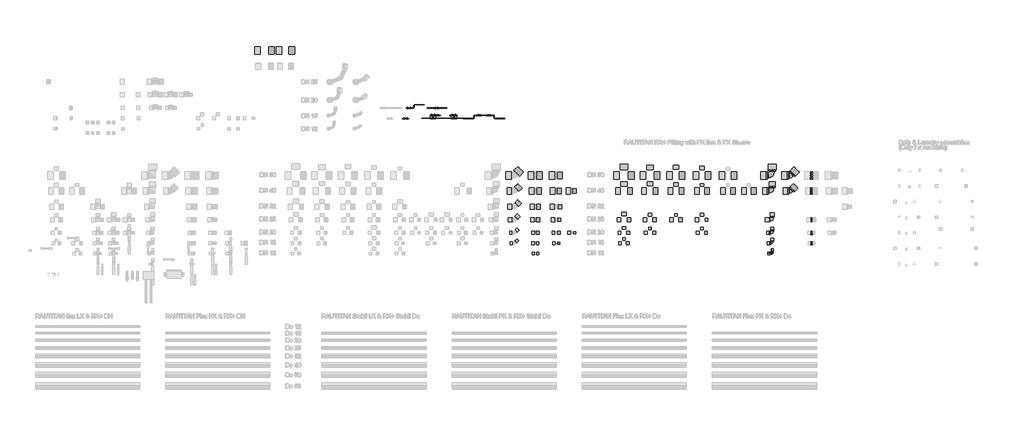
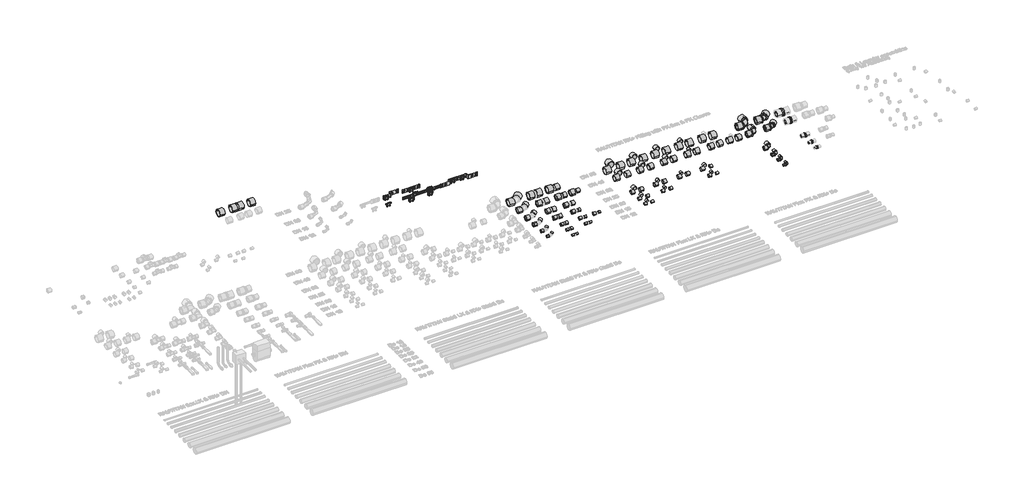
# One storey, part 8 of 18: 129 pipe fittings, 13 proxies.
"""IFC4 building model written with IfcOpenShell, lengths in millimetres."""

from ifc_helpers import new_model, si_unit, origin, place, context, project, spatial, transform, mapped, element, save
from components import mechanical_equipment_31ec48f0, mechanical_equipment_87cdfacb, mechanical_equipment_64e80083, mechanical_equipment_b03999f3, mechanical_equipment_fc905d6f, pipe_fitting_2d968c61, pipe_fitting_88740129, pipe_fitting_dc5bd9e1, pipe_fitting_0c431896, pipe_fitting_b86a113a, pipe_fitting_19b78b0a, pipe_fitting_ad9c1ac8, pipe_fitting_68c5f3c2, pipe_fitting_036417f6, pipe_fitting_41d1b401, pipe_fitting_b246e7b6, pipe_fitting_d3b0917d, pipe_fitting_559d0b61, pipe_fitting_5c01712a, pipe_fitting_b25a488c, dn1_c9c9eba3, dn1_749d9a03, dn1_037c3912, pipe_fitting_a8fbe6ac, pipe_fitting_02b715f6, pipe_fitting_7a5bf8d1, pipe_fitting_d8f8e9d9

model = new_model("IFC4")

# Units and contexts
model_context = context("Model", 3, world=origin())
ifc_project = project(units=[si_unit("LENGTHUNIT", "METRE", prefix="MILLI")], contexts=[model_context])

# Site, building, storey
site = spatial("IfcSite", under=ifc_project)
building = spatial("IfcBuilding", under=site)
storey = spatial("IfcBuildingStorey", under=building, Name="REHAU Starting view", Elevation=0.0)

# Proxies
placement = place(None, origin())
mechanical_equipment_shape = mechanical_equipment_31ec48f0(model_context)
element("IfcBuildingElementProxy", 1, Name="REHAU_RAUTITAN_Insulation plate for brackets : REHAU_RAUTITAN_Insulation plate for brackets", ObjectType="REHAU_RAUTITAN_Insulation plate for brackets : REHAU_RAUTITAN_Insulation plate for brackets", at=placement, inside=storey, context=model_context, shape_type="MappedRepresentation", body=[
    mapped(mechanical_equipment_shape, transform((6757.15, 1427.0, 0.0), x_axis=(1.0, 0.0, 0.0), y_axis=(0.0, 1.0, 0.0), z_axis=(0.0, 0.0, 1.0))),
])
element("IfcBuildingElementProxy", 2, Name="REHAU_RAUTITAN_Insulation plate for brackets : REHAU_RAUTITAN_Insulation plate for brackets", ObjectType="REHAU_RAUTITAN_Insulation plate for brackets : REHAU_RAUTITAN_Insulation plate for brackets", at=placement, inside=storey, context=model_context, shape_type="MappedRepresentation", body=[
    mapped(mechanical_equipment_shape, transform((6857.15, 1427.0, 0.0), x_axis=(1.0, 0.0, 0.0), y_axis=(0.0, 1.0, 0.0), z_axis=(0.0, 0.0, 1.0))),
])
element("IfcBuildingElementProxy", 3, Name="REHAU_RAUTITAN_Insulation plate for brackets : REHAU_RAUTITAN_Insulation plate for brackets", ObjectType="REHAU_RAUTITAN_Insulation plate for brackets : REHAU_RAUTITAN_Insulation plate for brackets", at=placement, inside=storey, context=model_context, shape_type="MappedRepresentation", body=[
    mapped(mechanical_equipment_shape, transform((6357.3374395, 1427.0, 0.0), x_axis=(1.0, 0.0, 0.0), y_axis=(0.0, 1.0, 0.0), z_axis=(0.0, 0.0, 1.0))),
])
element("IfcBuildingElementProxy", 4, Name="REHAU_RAUTITAN_Insulation plate for brackets : REHAU_RAUTITAN_Insulation plate for brackets", ObjectType="REHAU_RAUTITAN_Insulation plate for brackets : REHAU_RAUTITAN_Insulation plate for brackets", at=placement, inside=storey, context=model_context, shape_type="MappedRepresentation", body=[
    mapped(mechanical_equipment_shape, transform((6507.3374395, 1427.0, 0.0), x_axis=(1.0, 0.0, 0.0), y_axis=(0.0, 1.0, 0.0), z_axis=(0.0, 0.0, 1.0))),
])
element("IfcBuildingElementProxy", 5, Name="REHAU_RAUTITAN_Insulation plate for brackets : REHAU_RAUTITAN_Insulation plate for brackets", ObjectType="REHAU_RAUTITAN_Insulation plate for brackets : REHAU_RAUTITAN_Insulation plate for brackets", at=placement, inside=storey, context=model_context, shape_type="MappedRepresentation", body=[
    mapped(mechanical_equipment_shape, transform((6052.9151773, 1397.0, 0.0), x_axis=(1.0, 0.0, 0.0), y_axis=(0.0, 1.0, 0.0), z_axis=(0.0, 0.0, 1.0))),
])
element("IfcBuildingElementProxy", 6, Name="REHAU_RAUTITAN_Insulation plate for brackets : REHAU_RAUTITAN_Insulation plate for brackets", ObjectType="REHAU_RAUTITAN_Insulation plate for brackets : REHAU_RAUTITAN_Insulation plate for brackets", at=placement, inside=storey, context=model_context, shape_type="MappedRepresentation", body=[
    mapped(mechanical_equipment_shape, transform((6519.0826568, 1428.0, -58.0001742), x_axis=(1.0, 0.0, 0.0), y_axis=(0.0, 1.0, 0.0), z_axis=(0.0, 0.0, 1.0))),
])
element("IfcBuildingElementProxy", 7, Name="REHAU_RAUTITAN_Insulation plate for brackets : REHAU_RAUTITAN_Insulation plate for brackets", ObjectType="REHAU_RAUTITAN_Insulation plate for brackets : REHAU_RAUTITAN_Insulation plate for brackets", at=placement, inside=storey, context=model_context, shape_type="MappedRepresentation", body=[
    mapped(mechanical_equipment_shape, transform((6317.5907818, 1428.0, -58.0001742), x_axis=(1.0, 0.0, 0.0), y_axis=(0.0, 1.0, 0.0), z_axis=(0.0, 0.0, 1.0))),
])
element("IfcBuildingElementProxy", 8, Name="REHAU_RAUTITAN_Insulation plate for brackets : REHAU_RAUTITAN_Insulation plate for brackets", ObjectType="REHAU_RAUTITAN_Insulation plate for brackets : REHAU_RAUTITAN_Insulation plate for brackets", at=placement, inside=storey, context=model_context, shape_type="MappedRepresentation", body=[
    mapped(mechanical_equipment_shape, transform((6353.15, 1497.0, 0.0), x_axis=(1.0, 0.0, 0.0), y_axis=(0.0, 1.0, 0.0), z_axis=(0.0, 0.0, 1.0))),
])
element("IfcBuildingElementProxy", 9, Name="REHAU_RAUTITAN_Insulation plate for brackets : REHAU_RAUTITAN_Insulation plate for brackets", ObjectType="REHAU_RAUTITAN_Insulation plate for brackets : REHAU_RAUTITAN_Insulation plate for brackets", at=placement, inside=storey, context=model_context, shape_type="MappedRepresentation", body=[
    mapped(mechanical_equipment_shape, transform((6088.15, 1497.0, 0.0), x_axis=(1.0, 0.0, 0.0), y_axis=(0.0, 1.0, 0.0), z_axis=(0.0, 0.0, 1.0))),
])
mechanical_equipment_2_shape = mechanical_equipment_87cdfacb(model_context)
element("IfcBuildingElementProxy", 10, Name="REHAU_RAUTITAN_Bracket D : REHAU_RAUTITAN_Bracket D", ObjectType="REHAU_RAUTITAN_Bracket D : REHAU_RAUTITAN_Bracket D", at=placement, inside=storey, context=model_context, shape_type="MappedRepresentation", body=[
    mapped(mechanical_equipment_2_shape, transform((6418.15, 1414.0, 0.0), x_axis=(1.0, 0.0, 0.0), y_axis=(0.0, 1.0, 0.0), z_axis=(0.0, 0.0, 1.0))),
])
mechanical_equipment_3_shape = mechanical_equipment_64e80083(model_context)
element("IfcBuildingElementProxy", 11, Name="REHAU_RAUTITAN_Bracket E : REHAU_RAUTITAN_Bracket E", ObjectType="REHAU_RAUTITAN_Bracket E : REHAU_RAUTITAN_Bracket E", at=placement, inside=storey, context=model_context, shape_type="MappedRepresentation", body=[
    mapped(mechanical_equipment_3_shape, transform((6353.15, 1500.0, 0.0), x_axis=(1.0, 0.0, 0.0), y_axis=(0.0, 1.0, 0.0), z_axis=(0.0, 0.0, 1.0))),
])
mechanical_equipment_4_shape = mechanical_equipment_b03999f3(model_context)
element("IfcBuildingElementProxy", 12, Name="REHAU_RAUTITAN_Bracket O 100 : REHAU_RAUTITAN_Bracket O 100", ObjectType="REHAU_RAUTITAN_Bracket O 100 : REHAU_RAUTITAN_Bracket O 100", at=placement, inside=storey, context=model_context, shape_type="MappedRepresentation", body=[
    mapped(mechanical_equipment_4_shape, transform((6807.15, 1412.0, 0.0), x_axis=(1.0, 0.0, 0.0), y_axis=(0.0, 1.0, 0.0), z_axis=(0.0, 0.0, 1.0))),
])
mechanical_equipment_5_shape = mechanical_equipment_fc905d6f(model_context)
element("IfcBuildingElementProxy", 13, Name="REHAU_RAUTITAN_Bracket Z : REHAU Bracket Z 30, for single connection", ObjectType="REHAU_RAUTITAN_Bracket Z : REHAU Bracket Z 30, for single connection", at=placement, inside=storey, context=model_context, shape_type="MappedRepresentation", body=[
    mapped(mechanical_equipment_5_shape, transform((6133.15, 1512.0, 0.0), x_axis=(1.0, 0.0, 0.0), y_axis=(0.0, 1.0, 0.0), z_axis=(0.0, 0.0, 1.0))),
])

# Pipe fittings
pipe_fitting_shape = pipe_fitting_2d968c61(model_context)
element("IfcPipeFitting", 14, ObjectType="RAUTITAN_Union_RX+ : RTI RX+ U DN", at=placement, inside=storey, context=model_context, shape_type="MappedRepresentation", body=[
    mapped(pipe_fitting_shape, transform((9950.0, 200.0, 0.0), x_axis=(1.0, 0.0, 0.0), y_axis=(0.0, 1.0, 0.0), z_axis=(0.0, 0.0, 1.0))),
])
pipe_fitting_2_shape = pipe_fitting_88740129(model_context)
element("IfcPipeFitting", 15, ObjectType="RAUTITAN_Union_RX+ : RTI RX+ U DN", at=placement, inside=storey, context=model_context, shape_type="MappedRepresentation", body=[
    mapped(pipe_fitting_2_shape, transform((9950.0, 300.0, 0.0), x_axis=(1.0, 0.0, 0.0), y_axis=(0.0, 1.0, 0.0), z_axis=(0.0, 0.0, 1.0))),
])
pipe_fitting_3_shape = pipe_fitting_dc5bd9e1(model_context)
element("IfcPipeFitting", 16, ObjectType="RAUTITAN_Union_RX+ : RTI RX+ U DN", at=placement, inside=storey, context=model_context, shape_type="MappedRepresentation", body=[
    mapped(pipe_fitting_3_shape, transform((9950.0, 425.0, 0.0), x_axis=(1.0, 0.0, 0.0), y_axis=(0.0, 1.0, 0.0), z_axis=(0.0, 0.0, 1.0))),
])
pipe_fitting_4_shape = pipe_fitting_0c431896(model_context)
element("IfcPipeFitting", 17, ObjectType="RAUTITAN_Union_RX+ : RTI RX+ U DN", at=placement, inside=storey, context=model_context, shape_type="MappedRepresentation", body=[
    mapped(pipe_fitting_4_shape, transform((9950.0, 850.0, 0.0), x_axis=(1.0, 0.0, 0.0), y_axis=(0.0, 1.0, 0.0), z_axis=(0.0, 0.0, 1.0))),
])
pipe_fitting_5_shape = pipe_fitting_b86a113a(model_context)
element("IfcPipeFitting", 18, ObjectType="RAUTITAN_Corner_RX+ : RTI RX+ C DN", at=placement, inside=storey, context=model_context, shape_type="MappedRepresentation", body=[
    mapped(pipe_fitting_5_shape, transform((9575.0, 100.0, 0.0), x_axis=(1.0, 0.0, 0.0), y_axis=(0.0, 1.0, 0.0), z_axis=(0.0, 0.0, 1.0))),
])
pipe_fitting_6_shape = pipe_fitting_19b78b0a(model_context)
element("IfcPipeFitting", 19, ObjectType="RAUTITAN_Corner_RX+ : RTI RX+ C DN", at=placement, inside=storey, context=model_context, shape_type="MappedRepresentation", body=[
    mapped(pipe_fitting_6_shape, transform((9575.0, 200.0, 0.0), x_axis=(1.0, 0.0, 0.0), y_axis=(0.0, 1.0, 0.0), z_axis=(0.0, 0.0, 1.0))),
])
pipe_fitting_7_shape = pipe_fitting_ad9c1ac8(model_context)
element("IfcPipeFitting", 20, ObjectType="RAUTITAN_Corner_RX+ : RTI RX+ C DN", at=placement, inside=storey, context=model_context, shape_type="MappedRepresentation", body=[
    mapped(pipe_fitting_7_shape, transform((9575.0, 300.0, 0.0), x_axis=(1.0, 0.0, 0.0), y_axis=(0.0, 1.0, 0.0), z_axis=(0.0, 0.0, 1.0))),
])
pipe_fitting_8_shape = pipe_fitting_68c5f3c2(model_context)
element("IfcPipeFitting", 21, ObjectType="RAUTITAN_Corner_RX+ : RTI RX+ C DN", at=placement, inside=storey, context=model_context, shape_type="MappedRepresentation", body=[
    mapped(pipe_fitting_8_shape, transform((9575.0, 425.0, 0.0), x_axis=(1.0, 0.0, 0.0), y_axis=(0.0, 1.0, 0.0), z_axis=(0.0, 0.0, 1.0))),
])
pipe_fitting_9_shape = pipe_fitting_036417f6(model_context)
element("IfcPipeFitting", 22, ObjectType="RAUTITAN_Corner_RX+ : RTI RX+ C DN", at=placement, inside=storey, context=model_context, shape_type="MappedRepresentation", body=[
    mapped(pipe_fitting_9_shape, transform((9575.0, 700.0, 0.0), x_axis=(1.0, 0.0, 0.0), y_axis=(0.0, 1.0, 0.0), z_axis=(0.0, 0.0, 1.0))),
])
pipe_fitting_10_shape = pipe_fitting_41d1b401(model_context)
element("IfcPipeFitting", 23, ObjectType="RAUTITAN_Corner_RX+ : RTI RX+ C DN", at=placement, inside=storey, context=model_context, shape_type="MappedRepresentation", body=[
    mapped(pipe_fitting_10_shape, transform((9575.0, 850.0, 0.0), x_axis=(1.0, 0.0, 0.0), y_axis=(0.0, 1.0, 0.0), z_axis=(0.0, 0.0, 1.0))),
])
pipe_fitting_11_shape = pipe_fitting_b246e7b6(model_context)
element("IfcPipeFitting", 24, ObjectType="RAUTITAN_Corner_RX+ : RTI RX+ C DN", at=placement, inside=storey, context=model_context, shape_type="MappedRepresentation", body=[
    mapped(pipe_fitting_11_shape, transform((9750.0, 700.0, 0.0), x_axis=(1.0, 0.0, 0.0), y_axis=(0.0, 1.0, 0.0), z_axis=(0.0, 0.0, 1.0))),
])
pipe_fitting_12_shape = pipe_fitting_d3b0917d(model_context)
element("IfcPipeFitting", 25, ObjectType="RAUTITAN_Corner_RX+ : RTI RX+ C DN", at=placement, inside=storey, context=model_context, shape_type="MappedRepresentation", body=[
    mapped(pipe_fitting_12_shape, transform((9750.0, 850.0, 0.0), x_axis=(1.0, 0.0, 0.0), y_axis=(0.0, 1.0, 0.0), z_axis=(0.0, 0.0, 1.0))),
])
pipe_fitting_13_shape = pipe_fitting_559d0b61(model_context)
element("IfcPipeFitting", 26, ObjectType="RAUTITAN_Union_RX+ : RTI RX+ U DN", at=placement, inside=storey, context=model_context, shape_type="MappedRepresentation", body=[
    mapped(pipe_fitting_13_shape, transform((9950.0, 700.0, 0.0), x_axis=(1.0, 0.0, 0.0), y_axis=(0.0, 1.0, 0.0), z_axis=(0.0, 0.0, 1.0))),
])
pipe_fitting_14_shape = pipe_fitting_5c01712a(model_context)
element("IfcPipeFitting", 27, ObjectType="Sleeve : LX 7,4", at=placement, inside=storey, context=model_context, shape_type="MappedRepresentation", body=[
    mapped(pipe_fitting_14_shape, transform((9528.8, 700.0, 0.0), x_axis=(-1.0, 0.0, 0.0), y_axis=(0.0, -1.0, 0.0), z_axis=(0.0, 0.0, 1.0))),
])
element("IfcPipeFitting", 28, ObjectType="Sleeve : LX 7,4", at=placement, inside=storey, context=model_context, shape_type="MappedRepresentation", body=[
    mapped(pipe_fitting_14_shape, transform((9575.0, 746.2, 0.0), x_axis=(0.0, 1.0, 0.0), y_axis=(-1.0, 0.0, 0.0), z_axis=(0.0, 0.0, 1.0))),
])
element("IfcPipeFitting", 29, ObjectType="Sleeve : LX 7,4", at=placement, inside=storey, context=model_context, shape_type="MappedRepresentation", body=[
    mapped(pipe_fitting_14_shape, transform((9723.6, 700.0, 0.0), x_axis=(-1.0, 0.0, 0.0), y_axis=(0.0, -1.0, 0.0), z_axis=(0.0, 0.0, 1.0))),
])
element("IfcPipeFitting", 30, ObjectType="Sleeve : LX 7,4", at=placement, inside=storey, context=model_context, shape_type="MappedRepresentation", body=[
    mapped(pipe_fitting_14_shape, transform((9768.667619, 718.667619, 0.0), x_axis=(0.7071067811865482, 0.7071067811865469, 0.0), y_axis=(-0.7071067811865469, 0.7071067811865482, 0.0), z_axis=(0.0, 0.0, 1.0))),
])
element("IfcPipeFitting", 31, ObjectType="Sleeve : LX 7,4", at=placement, inside=storey, context=model_context, shape_type="MappedRepresentation", body=[
    mapped(pipe_fitting_14_shape, transform((8113.7, 700.0, 0.0), x_axis=(-1.0, 0.0, 0.0), y_axis=(0.0, -1.0, 0.0), z_axis=(0.0, 0.0, 1.0))),
])
element("IfcPipeFitting", 32, ObjectType="Sleeve : LX 7,4", at=placement, inside=storey, context=model_context, shape_type="MappedRepresentation", body=[
    mapped(pipe_fitting_14_shape, transform((8366.7, 700.0, 0.0), x_axis=(-1.0, 0.0, 0.0), y_axis=(0.0, -1.0, 0.0), z_axis=(0.0, 0.0, 1.0))),
])
element("IfcPipeFitting", 33, ObjectType="Sleeve : LX 7,4", at=placement, inside=storey, context=model_context, shape_type="MappedRepresentation", body=[
    mapped(pipe_fitting_14_shape, transform((8620.5, 700.0, 0.0), x_axis=(-1.0, 0.0, 0.0), y_axis=(0.0, -1.0, 0.0), z_axis=(0.0, 0.0, 1.0))),
])
element("IfcPipeFitting", 34, ObjectType="Sleeve : LX 7,4", at=placement, inside=storey, context=model_context, shape_type="MappedRepresentation", body=[
    mapped(pipe_fitting_14_shape, transform((8873.0, 700.0, 0.0), x_axis=(-1.0, 0.0, 0.0), y_axis=(0.0, -1.0, 0.0), z_axis=(0.0, 0.0, 1.0))),
])
element("IfcPipeFitting", 35, ObjectType="Sleeve : LX 7,4", at=placement, inside=storey, context=model_context, shape_type="MappedRepresentation", body=[
    mapped(pipe_fitting_14_shape, transform((9125.0, 700.0, 0.0), x_axis=(-1.0, 0.0, 0.0), y_axis=(0.0, -1.0, 0.0), z_axis=(0.0, 0.0, 1.0))),
])
element("IfcPipeFitting", 36, ObjectType="Sleeve : LX 7,4", at=placement, inside=storey, context=model_context, shape_type="MappedRepresentation", body=[
    mapped(pipe_fitting_14_shape, transform((9325.0, 700.0, 0.0), x_axis=(-1.0, 0.0, 0.0), y_axis=(0.0, -1.0, 0.0), z_axis=(0.0, 0.0, 1.0))),
])
element("IfcPipeFitting", 37, ObjectType="Sleeve : LX 7,4", at=placement, inside=storey, context=model_context, shape_type="MappedRepresentation", body=[
    mapped(pipe_fitting_14_shape, transform((8186.3, 700.0, 0.0), x_axis=(1.0, 0.0, 0.0), y_axis=(0.0, 1.0, 0.0), z_axis=(0.0, 0.0, 1.0))),
])
element("IfcPipeFitting", 38, ObjectType="Sleeve : LX 7,4", at=placement, inside=storey, context=model_context, shape_type="MappedRepresentation", body=[
    mapped(pipe_fitting_14_shape, transform((8433.3, 700.0, 0.0), x_axis=(1.0, 0.0, 0.0), y_axis=(0.0, 1.0, 0.0), z_axis=(0.0, 0.0, 1.0))),
])
element("IfcPipeFitting", 39, ObjectType="Sleeve : LX 7,4", at=placement, inside=storey, context=model_context, shape_type="MappedRepresentation", body=[
    mapped(pipe_fitting_14_shape, transform((8679.5, 700.0, 0.0), x_axis=(1.0, 0.0, 0.0), y_axis=(0.0, 1.0, 0.0), z_axis=(0.0, 0.0, 1.0))),
])
element("IfcPipeFitting", 40, ObjectType="Sleeve : LX 7,4", at=placement, inside=storey, context=model_context, shape_type="MappedRepresentation", body=[
    mapped(pipe_fitting_14_shape, transform((8927.0, 700.0, 0.0), x_axis=(1.0, 0.0, 0.0), y_axis=(0.0, 1.0, 0.0), z_axis=(0.0, 0.0, 1.0))),
])
element("IfcPipeFitting", 41, ObjectType="Sleeve : LX 7,4", at=placement, inside=storey, context=model_context, shape_type="MappedRepresentation", body=[
    mapped(pipe_fitting_14_shape, transform((9175.0, 700.0, 0.0), x_axis=(1.0, 0.0, 0.0), y_axis=(0.0, 1.0, 0.0), z_axis=(0.0, 0.0, 1.0))),
])
element("IfcPipeFitting", 42, ObjectType="Sleeve : LX 7,4", at=placement, inside=storey, context=model_context, shape_type="MappedRepresentation", body=[
    mapped(pipe_fitting_14_shape, transform((9375.0, 700.0, 0.0), x_axis=(1.0, 0.0, 0.0), y_axis=(0.0, 1.0, 0.0), z_axis=(0.0, 0.0, 1.0))),
])
element("IfcPipeFitting", 43, ObjectType="Sleeve : LX 7,4", at=placement, inside=storey, context=model_context, shape_type="MappedRepresentation", body=[
    mapped(pipe_fitting_14_shape, transform((8150.0, 748.0, 0.0), x_axis=(0.0, 1.0, 0.0), y_axis=(-1.0, 0.0, 0.0), z_axis=(0.0, 0.0, 1.0))),
])
element("IfcPipeFitting", 44, ObjectType="Sleeve : LX 7,4", at=placement, inside=storey, context=model_context, shape_type="MappedRepresentation", body=[
    mapped(pipe_fitting_14_shape, transform((8400.0, 903.0, 0.0), x_axis=(0.0, 1.0, 0.0), y_axis=(-1.0, 0.0, 0.0), z_axis=(0.0, 0.0, 1.0))),
])
pipe_fitting_15_shape = pipe_fitting_b25a488c(model_context)
element("IfcPipeFitting", 45, ObjectType="Sleeve : LX 7,4", at=placement, inside=storey, context=model_context, shape_type="MappedRepresentation", body=[
    mapped(pipe_fitting_15_shape, transform((9518.8, 850.0, 0.0), x_axis=(-1.0, 0.0, 0.0), y_axis=(0.0, -1.0, 0.0), z_axis=(0.0, 0.0, 1.0))),
])
element("IfcPipeFitting", 46, ObjectType="Sleeve : LX 7,4", at=placement, inside=storey, context=model_context, shape_type="MappedRepresentation", body=[
    mapped(pipe_fitting_15_shape, transform((9575.0, 906.2, 0.0), x_axis=(0.0, 1.0, 0.0), y_axis=(-1.0, 0.0, 0.0), z_axis=(0.0, 0.0, 1.0))),
])
element("IfcPipeFitting", 47, ObjectType="Sleeve : LX 7,4", at=placement, inside=storey, context=model_context, shape_type="MappedRepresentation", body=[
    mapped(pipe_fitting_15_shape, transform((9720.0, 850.0, 0.0), x_axis=(-1.0, 0.0, 0.0), y_axis=(0.0, -1.0, 0.0), z_axis=(0.0, 0.0, 1.0))),
])
element("IfcPipeFitting", 48, ObjectType="Sleeve : LX 7,4", at=placement, inside=storey, context=model_context, shape_type="MappedRepresentation", body=[
    mapped(pipe_fitting_15_shape, transform((9771.2132034, 871.2132034, 0.0), x_axis=(0.7071067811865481, 0.7071067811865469, 0.0), y_axis=(-0.7071067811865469, 0.7071067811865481, 0.0), z_axis=(0.0, 0.0, 1.0))),
])
element("IfcPipeFitting", 49, ObjectType="Sleeve : LX 7,4", at=placement, inside=storey, context=model_context, shape_type="MappedRepresentation", body=[
    mapped(pipe_fitting_15_shape, transform((8106.0, 850.0, 0.0), x_axis=(-1.0, 0.0, 0.0), y_axis=(0.0, -1.0, 0.0), z_axis=(0.0, 0.0, 1.0))),
])
element("IfcPipeFitting", 50, ObjectType="Sleeve : LX 7,4", at=placement, inside=storey, context=model_context, shape_type="MappedRepresentation", body=[
    mapped(pipe_fitting_15_shape, transform((8360.5, 850.0, 0.0), x_axis=(-1.0, 0.0, 0.0), y_axis=(0.0, -1.0, 0.0), z_axis=(0.0, 0.0, 1.0))),
])
element("IfcPipeFitting", 51, ObjectType="Sleeve : LX 7,4", at=placement, inside=storey, context=model_context, shape_type="MappedRepresentation", body=[
    mapped(pipe_fitting_15_shape, transform((8616.5, 850.0, 0.0), x_axis=(-1.0, 0.0, 0.0), y_axis=(0.0, -1.0, 0.0), z_axis=(0.0, 0.0, 1.0))),
])
element("IfcPipeFitting", 52, ObjectType="Sleeve : LX 7,4", at=placement, inside=storey, context=model_context, shape_type="MappedRepresentation", body=[
    mapped(pipe_fitting_15_shape, transform((8869.0, 850.0, 0.0), x_axis=(-1.0, 0.0, 0.0), y_axis=(0.0, -1.0, 0.0), z_axis=(0.0, 0.0, 1.0))),
])
element("IfcPipeFitting", 53, ObjectType="Sleeve : LX 7,4", at=placement, inside=storey, context=model_context, shape_type="MappedRepresentation", body=[
    mapped(pipe_fitting_15_shape, transform((9120.2, 850.0, 0.0), x_axis=(-1.0, 0.0, 0.0), y_axis=(0.0, -1.0, 0.0), z_axis=(0.0, 0.0, 1.0))),
])
element("IfcPipeFitting", 54, ObjectType="Sleeve : LX 7,4", at=placement, inside=storey, context=model_context, shape_type="MappedRepresentation", body=[
    mapped(pipe_fitting_15_shape, transform((8194.0, 850.0, 0.0), x_axis=(1.0, 0.0, 0.0), y_axis=(0.0, 1.0, 0.0), z_axis=(0.0, 0.0, 1.0))),
])
element("IfcPipeFitting", 55, ObjectType="Sleeve : LX 7,4", at=placement, inside=storey, context=model_context, shape_type="MappedRepresentation", body=[
    mapped(pipe_fitting_15_shape, transform((8439.5, 850.0, 0.0), x_axis=(1.0, 0.0, 0.0), y_axis=(0.0, 1.0, 0.0), z_axis=(0.0, 0.0, 1.0))),
])
element("IfcPipeFitting", 56, ObjectType="Sleeve : LX 7,4", at=placement, inside=storey, context=model_context, shape_type="MappedRepresentation", body=[
    mapped(pipe_fitting_15_shape, transform((8683.5, 850.0, 0.0), x_axis=(1.0, 0.0, 0.0), y_axis=(0.0, 1.0, 0.0), z_axis=(0.0, 0.0, 1.0))),
])
element("IfcPipeFitting", 57, ObjectType="Sleeve : LX 7,4", at=placement, inside=storey, context=model_context, shape_type="MappedRepresentation", body=[
    mapped(pipe_fitting_15_shape, transform((8931.0, 850.0, 0.0), x_axis=(1.0, 0.0, 0.0), y_axis=(0.0, 1.0, 0.0), z_axis=(0.0, 0.0, 1.0))),
])
element("IfcPipeFitting", 58, ObjectType="Sleeve : LX 7,4", at=placement, inside=storey, context=model_context, shape_type="MappedRepresentation", body=[
    mapped(pipe_fitting_15_shape, transform((9179.8, 850.0, 0.0), x_axis=(1.0, 0.0, 0.0), y_axis=(0.0, 1.0, 0.0), z_axis=(0.0, 0.0, 1.0))),
])
element("IfcPipeFitting", 59, ObjectType="Sleeve : LX 7,4", at=placement, inside=storey, context=model_context, shape_type="MappedRepresentation", body=[
    mapped(pipe_fitting_15_shape, transform((8150.0, 904.5, 0.0), x_axis=(0.0, 1.0, 0.0), y_axis=(-1.0, 0.0, 0.0), z_axis=(0.0, 0.0, 1.0))),
])
dn1_shape = dn1_c9c9eba3(model_context)
element("IfcPipeFitting", 60, ObjectType="Sleeve : PX 7,4", at=placement, inside=storey, context=model_context, shape_type="MappedRepresentation", body=[
    mapped(dn1_shape, transform((9554.1, 100.0, 0.0), x_axis=(-1.0, 0.0, 0.0), y_axis=(0.0, -1.0, 0.0), z_axis=(0.0, 0.0, 1.0))),
])
element("IfcPipeFitting", 61, ObjectType="Sleeve : PX 7,4", at=placement, inside=storey, context=model_context, shape_type="MappedRepresentation", body=[
    mapped(dn1_shape, transform((9575.0, 120.9, 0.0), x_axis=(0.0, 1.0, 0.0), y_axis=(-1.0, 0.0, 0.0), z_axis=(0.0, 0.0, 1.0))),
])
element("IfcPipeFitting", 62, ObjectType="Sleeve : PX 7,4", at=placement, inside=storey, context=model_context, shape_type="MappedRepresentation", body=[
    mapped(dn1_shape, transform((7510.3, 200.0, 0.0), x_axis=(1.0, 0.0, 0.0), y_axis=(0.0, 1.0, 0.0), z_axis=(0.0, 0.0, 1.0))),
])
element("IfcPipeFitting", 63, ObjectType="Sleeve : PX 7,4", at=placement, inside=storey, context=model_context, shape_type="MappedRepresentation", body=[
    mapped(dn1_shape, transform((7662.15, 300.0, 0.0), x_axis=(1.0, 0.0, 0.0), y_axis=(0.0, 1.0, 0.0), z_axis=(0.0, 0.0, 1.0))),
])
element("IfcPipeFitting", 64, ObjectType="Sleeve : PX 7,4", at=placement, inside=storey, context=model_context, shape_type="MappedRepresentation", body=[
    mapped(dn1_shape, transform((7292.75, 100.0, 0.0), x_axis=(-1.0, 0.0, 0.0), y_axis=(0.0, -1.0, 0.0), z_axis=(0.0, 0.0, 1.0))),
])
element("IfcPipeFitting", 65, ObjectType="Sleeve : PX 7,4", at=placement, inside=storey, context=model_context, shape_type="MappedRepresentation", body=[
    mapped(dn1_shape, transform((7307.25, 100.0, 0.0), x_axis=(1.0, 0.0, 0.0), y_axis=(0.0, 1.0, 0.0), z_axis=(0.0, 0.0, 1.0))),
])
dn1_2_shape = dn1_749d9a03(model_context)
element("IfcPipeFitting", 66, ObjectType="Sleeve : PX 7,4", at=placement, inside=storey, context=model_context, shape_type="MappedRepresentation", body=[
    mapped(dn1_2_shape, transform((7081.6867966, 200.0, 0.0), x_axis=(-1.0, 0.0, 0.0), y_axis=(0.0, -1.0, 0.0), z_axis=(0.0, 0.0, 1.0))),
])
element("IfcPipeFitting", 67, ObjectType="Sleeve : PX 7,4", at=placement, inside=storey, context=model_context, shape_type="MappedRepresentation", body=[
    mapped(dn1_2_shape, transform((7112.9493903, 212.9493903, 0.0), x_axis=(0.7071067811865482, 0.7071067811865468, 0.0), y_axis=(-0.7071067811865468, 0.7071067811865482, 0.0), z_axis=(0.0, 0.0, 1.0))),
])
element("IfcPipeFitting", 68, ObjectType="Sleeve : PX 7,4", at=placement, inside=storey, context=model_context, shape_type="MappedRepresentation", body=[
    mapped(dn1_2_shape, transform((9551.6, 200.0, 0.0), x_axis=(-1.0, 0.0, 0.0), y_axis=(0.0, -1.0, 0.0), z_axis=(0.0, 0.0, 1.0))),
])
element("IfcPipeFitting", 69, ObjectType="Sleeve : PX 7,4", at=placement, inside=storey, context=model_context, shape_type="MappedRepresentation", body=[
    mapped(dn1_2_shape, transform((9575.0, 223.4, 0.0), x_axis=(0.0, 1.0, 0.0), y_axis=(-1.0, 0.0, 0.0), z_axis=(0.0, 0.0, 1.0))),
])
element("IfcPipeFitting", 70, ObjectType="Sleeve : PX 7,4", at=placement, inside=storey, context=model_context, shape_type="MappedRepresentation", body=[
    mapped(dn1_2_shape, transform((8126.0, 200.0, 0.0), x_axis=(-1.0, 0.0, 0.0), y_axis=(0.0, -1.0, 0.0), z_axis=(0.0, 0.0, 1.0))),
])
element("IfcPipeFitting", 71, ObjectType="Sleeve : PX 7,4", at=placement, inside=storey, context=model_context, shape_type="MappedRepresentation", body=[
    mapped(dn1_2_shape, transform((8174.0, 200.0, 0.0), x_axis=(1.0, 0.0, 0.0), y_axis=(0.0, 1.0, 0.0), z_axis=(0.0, 0.0, 1.0))),
])
element("IfcPipeFitting", 72, ObjectType="Sleeve : PX 7,4", at=placement, inside=storey, context=model_context, shape_type="MappedRepresentation", body=[
    mapped(dn1_2_shape, transform((8924.0, 300.0, 0.0), x_axis=(1.0, 0.0, 0.0), y_axis=(0.0, 1.0, 0.0), z_axis=(0.0, 0.0, 1.0))),
])
element("IfcPipeFitting", 73, ObjectType="Sleeve : PX 7,4", at=placement, inside=storey, context=model_context, shape_type="MappedRepresentation", body=[
    mapped(dn1_2_shape, transform((8150.0, 227.0, 0.0), x_axis=(0.0, 1.0, 0.0), y_axis=(-1.0, 0.0, 0.0), z_axis=(0.0, 0.0, 1.0))),
])
element("IfcPipeFitting", 74, ObjectType="Sleeve : PX 7,4", at=placement, inside=storey, context=model_context, shape_type="MappedRepresentation", body=[
    mapped(dn1_2_shape, transform((8400.0, 330.0, 0.0), x_axis=(0.0, 1.0, 0.0), y_axis=(-1.0, 0.0, 0.0), z_axis=(0.0, 0.0, 1.0))),
])
element("IfcPipeFitting", 75, ObjectType="Sleeve : PX 7,4", at=placement, inside=storey, context=model_context, shape_type="MappedRepresentation", body=[
    mapped(dn1_2_shape, transform((8650.0, 458.0, 0.0), x_axis=(0.0, 1.0, 0.0), y_axis=(-1.0, 0.0, 0.0), z_axis=(0.0, 0.0, 1.0))),
])
element("IfcPipeFitting", 76, ObjectType="Sleeve : PX 7,4", at=placement, inside=storey, context=model_context, shape_type="MappedRepresentation", body=[
    mapped(dn1_2_shape, transform((8900.0, 330.0, 0.0), x_axis=(0.0, 1.0, 0.0), y_axis=(-1.0, 0.0, 0.0), z_axis=(0.0, 0.0, 1.0))),
])
element("IfcPipeFitting", 77, ObjectType="Sleeve : PX 7,4", at=placement, inside=storey, context=model_context, shape_type="MappedRepresentation", body=[
    mapped(dn1_2_shape, transform((7511.95, 300.0, 0.0), x_axis=(1.0, 0.0, 0.0), y_axis=(0.0, 1.0, 0.0), z_axis=(0.0, 0.0, 1.0))),
])
element("IfcPipeFitting", 78, ObjectType="Sleeve : PX 7,4", at=placement, inside=storey, context=model_context, shape_type="MappedRepresentation", body=[
    mapped(dn1_2_shape, transform((7489.7, 200.0, 0.0), x_axis=(-1.0, 0.0, 0.0), y_axis=(0.0, -1.0, 0.0), z_axis=(0.0, 0.0, 1.0))),
])
element("IfcPipeFitting", 79, ObjectType="Sleeve : PX 7,4", at=placement, inside=storey, context=model_context, shape_type="MappedRepresentation", body=[
    mapped(dn1_2_shape, transform((7292.15, 200.0, 0.0), x_axis=(-1.0, 0.0, 0.0), y_axis=(0.0, -1.0, 0.0), z_axis=(0.0, 0.0, 1.0))),
])
element("IfcPipeFitting", 80, ObjectType="Sleeve : PX 7,4", at=placement, inside=storey, context=model_context, shape_type="MappedRepresentation", body=[
    mapped(dn1_2_shape, transform((7307.85, 200.0, 0.0), x_axis=(1.0, 0.0, 0.0), y_axis=(0.0, 1.0, 0.0), z_axis=(0.0, 0.0, 1.0))),
])
dn1_3_shape = dn1_037c3912(model_context)
element("IfcPipeFitting", 81, ObjectType="Sleeve : PX 7,4", at=placement, inside=storey, context=model_context, shape_type="MappedRepresentation", body=[
    mapped(dn1_3_shape, transform((7078.9867966, 300.0, 0.0), x_axis=(-1.0, 0.0, 0.0), y_axis=(0.0, -1.0, 0.0), z_axis=(0.0, 0.0, 1.0))),
])
element("IfcPipeFitting", 82, ObjectType="Sleeve : PX 7,4", at=placement, inside=storey, context=model_context, shape_type="MappedRepresentation", body=[
    mapped(dn1_3_shape, transform((7114.8585786, 314.8585786, 0.0), x_axis=(0.7071067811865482, 0.7071067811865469, 0.0), y_axis=(-0.7071067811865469, 0.7071067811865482, 0.0), z_axis=(0.0, 0.0, 1.0))),
])
element("IfcPipeFitting", 83, ObjectType="Sleeve : PX 7,4", at=placement, inside=storey, context=model_context, shape_type="MappedRepresentation", body=[
    mapped(dn1_3_shape, transform((9547.5, 300.0, 0.0), x_axis=(-1.0, 0.0, 0.0), y_axis=(0.0, -1.0, 0.0), z_axis=(0.0, 0.0, 1.0))),
])
element("IfcPipeFitting", 84, ObjectType="Sleeve : PX 7,4", at=placement, inside=storey, context=model_context, shape_type="MappedRepresentation", body=[
    mapped(dn1_3_shape, transform((9575.0, 327.5, 0.0), x_axis=(0.0, 1.0, 0.0), y_axis=(-1.0, 0.0, 0.0), z_axis=(0.0, 0.0, 1.0))),
])
element("IfcPipeFitting", 85, ObjectType="Sleeve : PX 7,4", at=placement, inside=storey, context=model_context, shape_type="MappedRepresentation", body=[
    mapped(dn1_3_shape, transform((8121.0, 300.0, 0.0), x_axis=(-1.0, 0.0, 0.0), y_axis=(0.0, -1.0, 0.0), z_axis=(0.0, 0.0, 1.0))),
])
element("IfcPipeFitting", 86, ObjectType="Sleeve : PX 7,4", at=placement, inside=storey, context=model_context, shape_type="MappedRepresentation", body=[
    mapped(dn1_3_shape, transform((8372.0, 300.0, 0.0), x_axis=(-1.0, 0.0, 0.0), y_axis=(0.0, -1.0, 0.0), z_axis=(0.0, 0.0, 1.0))),
])
element("IfcPipeFitting", 87, ObjectType="Sleeve : PX 7,4", at=placement, inside=storey, context=model_context, shape_type="MappedRepresentation", body=[
    mapped(dn1_3_shape, transform((8872.0, 300.0, 0.0), x_axis=(-1.0, 0.0, 0.0), y_axis=(0.0, -1.0, 0.0), z_axis=(0.0, 0.0, 1.0))),
])
element("IfcPipeFitting", 88, ObjectType="Sleeve : PX 7,4", at=placement, inside=storey, context=model_context, shape_type="MappedRepresentation", body=[
    mapped(dn1_3_shape, transform((8179.0, 300.0, 0.0), x_axis=(1.0, 0.0, 0.0), y_axis=(0.0, 1.0, 0.0), z_axis=(0.0, 0.0, 1.0))),
])
element("IfcPipeFitting", 89, ObjectType="Sleeve : PX 7,4", at=placement, inside=storey, context=model_context, shape_type="MappedRepresentation", body=[
    mapped(dn1_3_shape, transform((8428.0, 300.0, 0.0), x_axis=(1.0, 0.0, 0.0), y_axis=(0.0, 1.0, 0.0), z_axis=(0.0, 0.0, 1.0))),
])
element("IfcPipeFitting", 90, ObjectType="Sleeve : PX 7,4", at=placement, inside=storey, context=model_context, shape_type="MappedRepresentation", body=[
    mapped(dn1_3_shape, transform((8929.0, 425.0, 0.0), x_axis=(1.0, 0.0, 0.0), y_axis=(0.0, 1.0, 0.0), z_axis=(0.0, 0.0, 1.0))),
])
element("IfcPipeFitting", 91, ObjectType="Sleeve : PX 7,4", at=placement, inside=storey, context=model_context, shape_type="MappedRepresentation", body=[
    mapped(dn1_3_shape, transform((8150.0, 332.0, 0.0), x_axis=(0.0, 1.0, 0.0), y_axis=(-1.0, 0.0, 0.0), z_axis=(0.0, 0.0, 1.0))),
])
element("IfcPipeFitting", 92, ObjectType="Sleeve : PX 7,4", at=placement, inside=storey, context=model_context, shape_type="MappedRepresentation", body=[
    mapped(dn1_3_shape, transform((8400.0, 460.0, 0.0), x_axis=(0.0, 1.0, 0.0), y_axis=(-1.0, 0.0, 0.0), z_axis=(0.0, 0.0, 1.0))),
])
element("IfcPipeFitting", 93, ObjectType="Sleeve : PX 7,4", at=placement, inside=storey, context=model_context, shape_type="MappedRepresentation", body=[
    mapped(dn1_3_shape, transform((8900.0, 744.5, 0.0), x_axis=(0.0, 1.0, 0.0), y_axis=(-1.0, 0.0, 0.0), z_axis=(0.0, 0.0, 1.0))),
])
element("IfcPipeFitting", 94, ObjectType="Sleeve : PX 7,4", at=placement, inside=storey, context=model_context, shape_type="MappedRepresentation", body=[
    mapped(dn1_3_shape, transform((8900.0, 460.0, 0.0), x_axis=(0.0, 1.0, 0.0), y_axis=(-1.0, 0.0, 0.0), z_axis=(0.0, 0.0, 1.0))),
])
element("IfcPipeFitting", 95, ObjectType="Sleeve : PX 7,4", at=placement, inside=storey, context=model_context, shape_type="MappedRepresentation", body=[
    mapped(dn1_3_shape, transform((7514.15, 425.0, 0.0), x_axis=(1.0, 0.0, 0.0), y_axis=(0.0, 1.0, 0.0), z_axis=(0.0, 0.0, 1.0))),
])
element("IfcPipeFitting", 96, ObjectType="Sleeve : PX 7,4", at=placement, inside=storey, context=model_context, shape_type="MappedRepresentation", body=[
    mapped(dn1_3_shape, transform((7488.05, 300.0, 0.0), x_axis=(-1.0, 0.0, 0.0), y_axis=(0.0, -1.0, 0.0), z_axis=(0.0, 0.0, 1.0))),
])
element("IfcPipeFitting", 97, ObjectType="Sleeve : PX 7,4", at=placement, inside=storey, context=model_context, shape_type="MappedRepresentation", body=[
    mapped(dn1_3_shape, transform((7637.85, 300.0, 0.0), x_axis=(-1.0, 0.0, 0.0), y_axis=(0.0, -1.0, 0.0), z_axis=(0.0, 0.0, 1.0))),
])
element("IfcPipeFitting", 98, ObjectType="Sleeve : PX 7,4", at=placement, inside=storey, context=model_context, shape_type="MappedRepresentation", body=[
    mapped(dn1_3_shape, transform((7291.95, 300.0, 0.0), x_axis=(-1.0, 0.0, 0.0), y_axis=(0.0, -1.0, 0.0), z_axis=(0.0, 0.0, 1.0))),
])
element("IfcPipeFitting", 99, ObjectType="Sleeve : PX 7,4", at=placement, inside=storey, context=model_context, shape_type="MappedRepresentation", body=[
    mapped(dn1_3_shape, transform((7308.05, 300.0, 0.0), x_axis=(1.0, 0.0, 0.0), y_axis=(0.0, 1.0, 0.0), z_axis=(0.0, 0.0, 1.0))),
])
pipe_fitting_16_shape = pipe_fitting_a8fbe6ac(model_context)
element("IfcPipeFitting", 100, ObjectType="Sleeve : PX 7,4", at=placement, inside=storey, context=model_context, shape_type="MappedRepresentation", body=[
    mapped(pipe_fitting_16_shape, transform((7075.7867966, 425.0, 0.0), x_axis=(-1.0, 0.0, 0.0), y_axis=(0.0, -1.0, 0.0), z_axis=(0.0, 0.0, 1.0))),
])
element("IfcPipeFitting", 101, ObjectType="Sleeve : PX 7,4", at=placement, inside=storey, context=model_context, shape_type="MappedRepresentation", body=[
    mapped(pipe_fitting_16_shape, transform((7117.1213203, 442.1213203, 0.0), x_axis=(0.7071067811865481, 0.7071067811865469, 0.0), y_axis=(-0.7071067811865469, 0.7071067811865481, 0.0), z_axis=(0.0, 0.0, 1.0))),
])
element("IfcPipeFitting", 102, ObjectType="Sleeve : PX 7,4", at=placement, inside=storey, context=model_context, shape_type="MappedRepresentation", body=[
    mapped(pipe_fitting_16_shape, transform((9543.6, 425.0, 0.0), x_axis=(-1.0, 0.0, 0.0), y_axis=(0.0, -1.0, 0.0), z_axis=(0.0, 0.0, 1.0))),
])
element("IfcPipeFitting", 103, ObjectType="Sleeve : PX 7,4", at=placement, inside=storey, context=model_context, shape_type="MappedRepresentation", body=[
    mapped(pipe_fitting_16_shape, transform((9575.0, 456.4, 0.0), x_axis=(0.0, 1.0, 0.0), y_axis=(-1.0, 0.0, 0.0), z_axis=(0.0, 0.0, 1.0))),
])
element("IfcPipeFitting", 104, ObjectType="Sleeve : PX 7,4", at=placement, inside=storey, context=model_context, shape_type="MappedRepresentation", body=[
    mapped(pipe_fitting_16_shape, transform((8120.0, 425.0, 0.0), x_axis=(-1.0, 0.0, 0.0), y_axis=(0.0, -1.0, 0.0), z_axis=(0.0, 0.0, 1.0))),
])
element("IfcPipeFitting", 105, ObjectType="Sleeve : PX 7,4", at=placement, inside=storey, context=model_context, shape_type="MappedRepresentation", body=[
    mapped(pipe_fitting_16_shape, transform((8371.0, 425.0, 0.0), x_axis=(-1.0, 0.0, 0.0), y_axis=(0.0, -1.0, 0.0), z_axis=(0.0, 0.0, 1.0))),
])
element("IfcPipeFitting", 106, ObjectType="Sleeve : PX 7,4", at=placement, inside=storey, context=model_context, shape_type="MappedRepresentation", body=[
    mapped(pipe_fitting_16_shape, transform((8623.0, 425.0, 0.0), x_axis=(-1.0, 0.0, 0.0), y_axis=(0.0, -1.0, 0.0), z_axis=(0.0, 0.0, 1.0))),
])
element("IfcPipeFitting", 107, ObjectType="Sleeve : PX 7,4", at=placement, inside=storey, context=model_context, shape_type="MappedRepresentation", body=[
    mapped(pipe_fitting_16_shape, transform((8871.0, 425.0, 0.0), x_axis=(-1.0, 0.0, 0.0), y_axis=(0.0, -1.0, 0.0), z_axis=(0.0, 0.0, 1.0))),
])
element("IfcPipeFitting", 108, ObjectType="Sleeve : PX 7,4", at=placement, inside=storey, context=model_context, shape_type="MappedRepresentation", body=[
    mapped(pipe_fitting_16_shape, transform((8180.0, 425.0, 0.0), x_axis=(1.0, 0.0, 0.0), y_axis=(0.0, 1.0, 0.0), z_axis=(0.0, 0.0, 1.0))),
])
element("IfcPipeFitting", 109, ObjectType="Sleeve : PX 7,4", at=placement, inside=storey, context=model_context, shape_type="MappedRepresentation", body=[
    mapped(pipe_fitting_16_shape, transform((8429.0, 425.0, 0.0), x_axis=(1.0, 0.0, 0.0), y_axis=(0.0, 1.0, 0.0), z_axis=(0.0, 0.0, 1.0))),
])
element("IfcPipeFitting", 110, ObjectType="Sleeve : PX 7,4", at=placement, inside=storey, context=model_context, shape_type="MappedRepresentation", body=[
    mapped(pipe_fitting_16_shape, transform((8677.0, 425.0, 0.0), x_axis=(1.0, 0.0, 0.0), y_axis=(0.0, 1.0, 0.0), z_axis=(0.0, 0.0, 1.0))),
])
element("IfcPipeFitting", 111, ObjectType="Sleeve : PX 7,4", at=placement, inside=storey, context=model_context, shape_type="MappedRepresentation", body=[
    mapped(pipe_fitting_16_shape, transform((8150.0, 463.0, 0.0), x_axis=(0.0, 1.0, 0.0), y_axis=(-1.0, 0.0, 0.0), z_axis=(0.0, 0.0, 1.0))),
])
element("IfcPipeFitting", 112, ObjectType="Sleeve : PX 7,4", at=placement, inside=storey, context=model_context, shape_type="MappedRepresentation", body=[
    mapped(pipe_fitting_16_shape, transform((8650.0, 747.0, 0.0), x_axis=(0.0, 1.0, 0.0), y_axis=(-1.0, 0.0, 0.0), z_axis=(0.0, 0.0, 1.0))),
])
element("IfcPipeFitting", 113, ObjectType="Sleeve : PX 7,4", at=placement, inside=storey, context=model_context, shape_type="MappedRepresentation", body=[
    mapped(pipe_fitting_16_shape, transform((8900.0, 904.5, 0.0), x_axis=(0.0, 1.0, 0.0), y_axis=(-1.0, 0.0, 0.0), z_axis=(0.0, 0.0, 1.0))),
])
element("IfcPipeFitting", 114, ObjectType="Sleeve : PX 7,4", at=placement, inside=storey, context=model_context, shape_type="MappedRepresentation", body=[
    mapped(pipe_fitting_16_shape, transform((7517.25, 550.0, 0.0), x_axis=(1.0, 0.0, 0.0), y_axis=(0.0, 1.0, 0.0), z_axis=(0.0, 0.0, 1.0))),
])
element("IfcPipeFitting", 115, ObjectType="Sleeve : PX 7,4", at=placement, inside=storey, context=model_context, shape_type="MappedRepresentation", body=[
    mapped(pipe_fitting_16_shape, transform((7485.85, 425.0, 0.0), x_axis=(-1.0, 0.0, 0.0), y_axis=(0.0, -1.0, 0.0), z_axis=(0.0, 0.0, 1.0))),
])
element("IfcPipeFitting", 116, ObjectType="Sleeve : PX 7,4", at=placement, inside=storey, context=model_context, shape_type="MappedRepresentation", body=[
    mapped(pipe_fitting_16_shape, transform((7658.0, 700.0, 0.0), x_axis=(1.0, 0.0, 0.0), y_axis=(0.0, 1.0, 0.0), z_axis=(0.0, 0.0, 1.0))),
])
element("IfcPipeFitting", 117, ObjectType="Sleeve : PX 7,4", at=placement, inside=storey, context=model_context, shape_type="MappedRepresentation", body=[
    mapped(pipe_fitting_16_shape, transform((7291.0, 425.0, 0.0), x_axis=(-1.0, 0.0, 0.0), y_axis=(0.0, -1.0, 0.0), z_axis=(0.0, 0.0, 1.0))),
])
element("IfcPipeFitting", 118, ObjectType="Sleeve : PX 7,4", at=placement, inside=storey, context=model_context, shape_type="MappedRepresentation", body=[
    mapped(pipe_fitting_16_shape, transform((7309.0, 425.0, 0.0), x_axis=(1.0, 0.0, 0.0), y_axis=(0.0, 1.0, 0.0), z_axis=(0.0, 0.0, 1.0))),
])
pipe_fitting_17_shape = pipe_fitting_02b715f6(model_context)
element("IfcPipeFitting", 119, ObjectType="Sleeve : PX 7,4", at=placement, inside=storey, context=model_context, shape_type="MappedRepresentation", body=[
    mapped(pipe_fitting_17_shape, transform((7073.5, 700.0, 0.0), x_axis=(-1.0, 0.0, 0.0), y_axis=(0.0, -1.0, 0.0), z_axis=(0.0, 0.0, 1.0))),
])
element("IfcPipeFitting", 120, ObjectType="Sleeve : PX 7,4", at=placement, inside=storey, context=model_context, shape_type="MappedRepresentation", body=[
    mapped(pipe_fitting_17_shape, transform((7118.7383297, 718.7383297, 0.0), x_axis=(0.7071067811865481, 0.7071067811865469, 0.0), y_axis=(-0.7071067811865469, 0.7071067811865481, 0.0), z_axis=(0.0, 0.0, 1.0))),
])
element("IfcPipeFitting", 121, ObjectType="Sleeve : PX 7,4", at=placement, inside=storey, context=model_context, shape_type="MappedRepresentation", body=[
    mapped(pipe_fitting_17_shape, transform((7489.0, 700.0, 0.0), x_axis=(-1.0, 0.0, 0.0), y_axis=(0.0, -1.0, 0.0), z_axis=(0.0, 0.0, 1.0))),
])
element("IfcPipeFitting", 122, ObjectType="Sleeve : PX 7,4", at=placement, inside=storey, context=model_context, shape_type="MappedRepresentation", body=[
    mapped(pipe_fitting_17_shape, transform((7512.0, 850.0, 0.0), x_axis=(1.0, 0.0, 0.0), y_axis=(0.0, 1.0, 0.0), z_axis=(0.0, 0.0, 1.0))),
])
element("IfcPipeFitting", 123, ObjectType="Sleeve : PX 7,4", at=placement, inside=storey, context=model_context, shape_type="MappedRepresentation", body=[
    mapped(pipe_fitting_17_shape, transform((7640.0, 700.0, 0.0), x_axis=(-1.0, 0.0, 0.0), y_axis=(0.0, -1.0, 0.0), z_axis=(0.0, 0.0, 1.0))),
])
element("IfcPipeFitting", 124, ObjectType="Sleeve : PX 7,4", at=placement, inside=storey, context=model_context, shape_type="MappedRepresentation", body=[
    mapped(pipe_fitting_17_shape, transform((7287.0, 700.0, 0.0), x_axis=(-1.0, 0.0, 0.0), y_axis=(0.0, -1.0, 0.0), z_axis=(0.0, 0.0, 1.0))),
])
element("IfcPipeFitting", 125, ObjectType="Sleeve : PX 7,4", at=placement, inside=storey, context=model_context, shape_type="MappedRepresentation", body=[
    mapped(pipe_fitting_17_shape, transform((7313.0, 700.0, 0.0), x_axis=(1.0, 0.0, 0.0), y_axis=(0.0, 1.0, 0.0), z_axis=(0.0, 0.0, 1.0))),
])
pipe_fitting_18_shape = pipe_fitting_7a5bf8d1(model_context)
element("IfcPipeFitting", 126, ObjectType="Sleeve : PX 7,4", at=placement, inside=storey, context=model_context, shape_type="MappedRepresentation", body=[
    mapped(pipe_fitting_18_shape, transform((7070.0, 850.0, 0.0), x_axis=(-1.0, 0.0, 0.0), y_axis=(0.0, -1.0, 0.0), z_axis=(0.0, 0.0, 1.0))),
])
element("IfcPipeFitting", 127, ObjectType="Sleeve : PX 7,4", at=placement, inside=storey, context=model_context, shape_type="MappedRepresentation", body=[
    mapped(pipe_fitting_18_shape, transform((7121.2132034, 871.2132034, 0.0), x_axis=(0.7071067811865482, 0.7071067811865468, 0.0), y_axis=(-0.7071067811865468, 0.7071067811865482, 0.0), z_axis=(0.0, 0.0, 1.0))),
])
element("IfcPipeFitting", 128, ObjectType="Sleeve : PX 7,4", at=placement, inside=storey, context=model_context, shape_type="MappedRepresentation", body=[
    mapped(pipe_fitting_18_shape, transform((7486.5, 850.0, 0.0), x_axis=(-1.0, 0.0, 0.0), y_axis=(0.0, -1.0, 0.0), z_axis=(0.0, 0.0, 1.0))),
])
element("IfcPipeFitting", 129, ObjectType="Sleeve : PX 7,4", at=placement, inside=storey, context=model_context, shape_type="MappedRepresentation", body=[
    mapped(pipe_fitting_18_shape, transform((7285.5, 850.0, 0.0), x_axis=(-1.0, 0.0, 0.0), y_axis=(0.0, -1.0, 0.0), z_axis=(0.0, 0.0, 1.0))),
])
element("IfcPipeFitting", 130, ObjectType="Sleeve : PX 7,4", at=placement, inside=storey, context=model_context, shape_type="MappedRepresentation", body=[
    mapped(pipe_fitting_18_shape, transform((7314.5, 850.0, 0.0), x_axis=(1.0, 0.0, 0.0), y_axis=(0.0, 1.0, 0.0), z_axis=(0.0, 0.0, 1.0))),
])
element("IfcPipeFitting", 131, ObjectType="Sleeve : PX 7,4", at=placement, inside=storey, context=model_context, shape_type="MappedRepresentation", body=[
    mapped(pipe_fitting_18_shape, transform((4659.0, 2050.0, 0.0), x_axis=(-1.0, 0.0, 0.0), y_axis=(0.0, -1.0, 0.0), z_axis=(0.0, 0.0, 1.0))),
])
element("IfcPipeFitting", 132, ObjectType="Sleeve : PX 7,4", at=placement, inside=storey, context=model_context, shape_type="MappedRepresentation", body=[
    mapped(pipe_fitting_18_shape, transform((4741.0, 2050.0, 0.0), x_axis=(1.0, 0.0, 0.0), y_axis=(0.0, 1.0, 0.0), z_axis=(0.0, 0.0, 1.0))),
])
element("IfcPipeFitting", 133, ObjectType="Sleeve : PX 7,4", at=placement, inside=storey, context=model_context, shape_type="MappedRepresentation", body=[
    mapped(pipe_fitting_18_shape, transform((4866.0, 2050.0, 0.0), x_axis=(-1.0, 0.0, 0.0), y_axis=(0.0, -1.0, 0.0), z_axis=(0.0, 0.0, 1.0))),
])
element("IfcPipeFitting", 134, ObjectType="Sleeve : PX 7,4", at=placement, inside=storey, context=model_context, shape_type="MappedRepresentation", body=[
    mapped(pipe_fitting_18_shape, transform((4934.0, 2050.0, 0.0), x_axis=(1.0, 0.0, 0.0), y_axis=(0.0, 1.0, 0.0), z_axis=(0.0, 0.0, 1.0))),
])
pipe_fitting_19_shape = pipe_fitting_d8f8e9d9(model_context)
element("IfcPipeFitting", 135, ObjectType="Sleeve : PX 7,4", at=placement, inside=storey, context=model_context, shape_type="MappedRepresentation", body=[
    mapped(pipe_fitting_19_shape, transform((7070.7867966, 550.0, 0.0), x_axis=(-1.0, 0.0, 0.0), y_axis=(0.0, -1.0, 0.0), z_axis=(0.0, 0.0, 1.0))),
])
element("IfcPipeFitting", 136, ObjectType="Sleeve : PX 7,4", at=placement, inside=storey, context=model_context, shape_type="MappedRepresentation", body=[
    mapped(pipe_fitting_19_shape, transform((7120.6568542, 570.6568542, 0.0), x_axis=(0.7071067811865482, 0.7071067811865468, 0.0), y_axis=(-0.7071067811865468, 0.7071067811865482, 0.0), z_axis=(0.0, 0.0, 1.0))),
])
element("IfcPipeFitting", 137, ObjectType="Sleeve : PX 7,4", at=placement, inside=storey, context=model_context, shape_type="MappedRepresentation", body=[
    mapped(pipe_fitting_19_shape, transform((8400.0, 750.5, 0.0), x_axis=(0.0, 1.0, 0.0), y_axis=(-1.0, 0.0, 0.0), z_axis=(0.0, 0.0, 1.0))),
])
element("IfcPipeFitting", 138, ObjectType="Sleeve : PX 7,4", at=placement, inside=storey, context=model_context, shape_type="MappedRepresentation", body=[
    mapped(pipe_fitting_19_shape, transform((8650.0, 911.0, 0.0), x_axis=(0.0, 1.0, 0.0), y_axis=(-1.0, 0.0, 0.0), z_axis=(0.0, 0.0, 1.0))),
])
element("IfcPipeFitting", 139, ObjectType="Sleeve : PX 7,4", at=placement, inside=storey, context=model_context, shape_type="MappedRepresentation", body=[
    mapped(pipe_fitting_19_shape, transform((7482.75, 550.0, 0.0), x_axis=(-1.0, 0.0, 0.0), y_axis=(0.0, -1.0, 0.0), z_axis=(0.0, 0.0, 1.0))),
])
element("IfcPipeFitting", 140, ObjectType="Sleeve : PX 7,4", at=placement, inside=storey, context=model_context, shape_type="MappedRepresentation", body=[
    mapped(pipe_fitting_19_shape, transform((7511.0, 700.0, 0.0), x_axis=(1.0, 0.0, 0.0), y_axis=(0.0, 1.0, 0.0), z_axis=(0.0, 0.0, 1.0))),
])
element("IfcPipeFitting", 141, ObjectType="Sleeve : PX 7,4", at=placement, inside=storey, context=model_context, shape_type="MappedRepresentation", body=[
    mapped(pipe_fitting_19_shape, transform((7289.0, 550.0, 0.0), x_axis=(-1.0, 0.0, 0.0), y_axis=(0.0, -1.0, 0.0), z_axis=(0.0, 0.0, 1.0))),
])
element("IfcPipeFitting", 142, ObjectType="Sleeve : PX 7,4", at=placement, inside=storey, context=model_context, shape_type="MappedRepresentation", body=[
    mapped(pipe_fitting_19_shape, transform((7311.0, 550.0, 0.0), x_axis=(1.0, 0.0, 0.0), y_axis=(0.0, 1.0, 0.0), z_axis=(0.0, 0.0, 1.0))),
])

save(model, "model.ifc")
